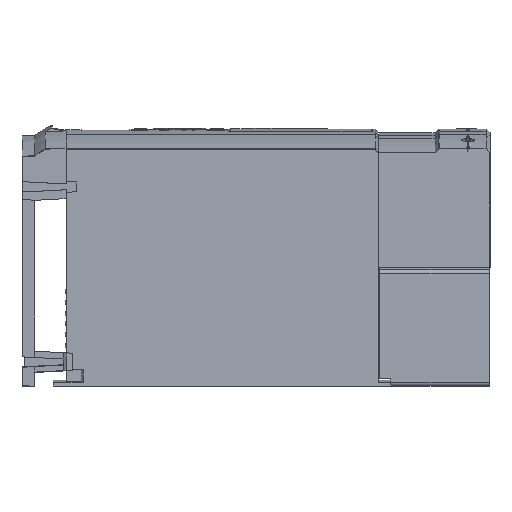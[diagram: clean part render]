
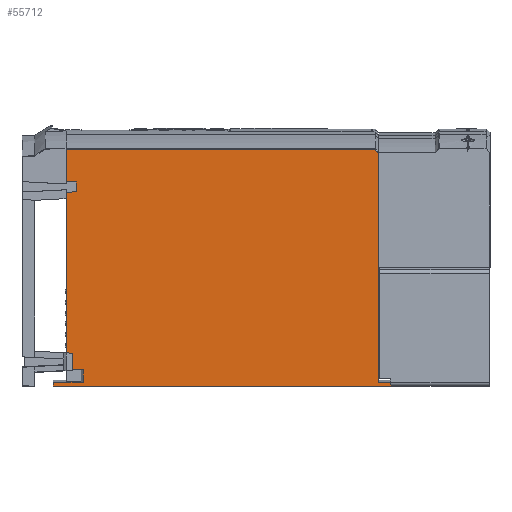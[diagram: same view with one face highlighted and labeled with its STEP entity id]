
A CAD part, left-side view. The second image highlights one B-rep face of the part: STEP entity #55712.
In plain terms, the highlighted planar face has unit normal (-1, 0, 0).
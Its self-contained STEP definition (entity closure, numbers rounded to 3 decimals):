
#3016=CARTESIAN_POINT('',(-104.4,-124.,95.442));
#3242=DIRECTION('',(0.,0.,1.));
#3243=VECTOR('',#3242,181.842);
#3244=CARTESIAN_POINT('',(-104.4,-124.,-86.4));
#3245=LINE('',#3244,#3243);
#3249=DIRECTION('',(0.,-1.,0.));
#3250=VECTOR('',#3249,245.64);
#3251=CARTESIAN_POINT('',(-104.4,124.,99.016));
#3252=LINE('',#3251,#3250);
#3256=CARTESIAN_POINT('',(-104.4,-124.,95.442));
#3257=CARTESIAN_POINT('',(-104.4,-123.609,96.034));
#3258=CARTESIAN_POINT('',(-104.4,-122.825,97.222));
#3259=CARTESIAN_POINT('',(-104.4,-122.036,98.417));
#3260=CARTESIAN_POINT('',(-104.4,-121.64,99.016));
#3265=DIRECTION('',(0.,1.,0.));
#3266=VECTOR('',#3265,268.);
#3267=CARTESIAN_POINT('',(-104.4,-134.,-89.4));
#3268=LINE('',#3267,#3266);
#3272=DIRECTION('',(0.,0.,1.));
#3273=VECTOR('',#3272,10.);
#3274=CARTESIAN_POINT('',(-104.4,110.213,-86.4));
#3275=LINE('',#3274,#3273);
#3279=DIRECTION('',(0.,0.,-1.));
#3280=VECTOR('',#3279,13.452);
#3281=CARTESIAN_POINT('',(-104.4,124.,-62.948));
#3282=LINE('',#3281,#3280);
#3286=DIRECTION('',(0.,0.,-1.));
#3287=VECTOR('',#3286,5.097);
#3288=CARTESIAN_POINT('',(-104.4,124.,64.697));
#3289=LINE('',#3288,#3287);
#3293=DIRECTION('',(0.,0.999,-0.052));
#3294=VECTOR('',#3293,8.01);
#3295=CARTESIAN_POINT('',(-104.4,116.001,65.116));
#3296=LINE('',#3295,#3294);
#3300=DIRECTION('',(0.,0.,1.));
#3301=VECTOR('',#3300,7.767);
#3302=CARTESIAN_POINT('',(-104.4,116.001,65.116));
#3303=LINE('',#3302,#3301);
#3307=DIRECTION('',(0.,-0.999,-0.052));
#3308=VECTOR('',#3307,8.01);
#3309=CARTESIAN_POINT('',(-104.4,124.,73.303));
#3310=LINE('',#3309,#3308);
#3314=DIRECTION('',(0.,0.,-1.));
#3315=VECTOR('',#3314,25.713);
#3316=CARTESIAN_POINT('',(-104.4,124.,99.016));
#3317=LINE('',#3316,#3315);
#3556=DIRECTION('',(0.,0.,1.));
#3557=VECTOR('',#3556,122.548);
#3558=CARTESIAN_POINT('',(-104.4,124.,-62.948));
#3559=LINE('',#3558,#3557);
#5321=DIRECTION('',(0.,-1.,0.));
#5322=VECTOR('',#5321,13.787);
#5323=CARTESIAN_POINT('',(-104.4,124.,-76.4));
#5324=LINE('',#5323,#5322);
#5430=DIRECTION('',(0.,1.,0.));
#5431=VECTOR('',#5430,10.);
#5432=CARTESIAN_POINT('',(-104.4,-134.,-86.4));
#5433=LINE('',#5432,#5431);
#5444=DIRECTION('',(0.,1.,0.));
#5445=VECTOR('',#5444,23.787);
#5446=CARTESIAN_POINT('',(-104.4,110.213,-86.4));
#5447=LINE('',#5446,#5445);
#46353=DIRECTION('',(0.,0.,1.));
#46354=VECTOR('',#46353,3.);
#46355=CARTESIAN_POINT('',(-104.4,134.,-89.4));
#46356=LINE('',#46355,#46354);
#46465=DIRECTION('',(0.,0.,1.));
#46466=VECTOR('',#46465,3.);
#46467=CARTESIAN_POINT('',(-104.4,-134.,-89.4));
#46468=LINE('',#46467,#46466);
#47892=CARTESIAN_POINT('',(-104.4,-134.,-89.4));
#47893=CARTESIAN_POINT('',(-104.4,-134.,-86.4));
#47894=VERTEX_POINT('',#47892);
#47895=VERTEX_POINT('',#47893);
#47900=CARTESIAN_POINT('',(-104.4,134.,-89.4));
#47901=CARTESIAN_POINT('',(-104.4,134.,-86.4));
#47902=VERTEX_POINT('',#47900);
#47903=VERTEX_POINT('',#47901);
#49508=CARTESIAN_POINT('',(-104.4,-124.,-86.4));
#49509=VERTEX_POINT('',#49508);
#49516=CARTESIAN_POINT('',(-104.4,110.213,-86.4));
#49517=VERTEX_POINT('',#49516);
#49518=CARTESIAN_POINT('',(-104.4,110.213,-76.4));
#49519=VERTEX_POINT('',#49518);
#51297=CARTESIAN_POINT('',(-104.4,124.,-62.948));
#51299=VERTEX_POINT('',#51297);
#51309=CARTESIAN_POINT('',(-104.4,124.,59.6));
#51311=VERTEX_POINT('',#51309);
#51333=CARTESIAN_POINT('',(-104.4,124.,64.697));
#51334=VERTEX_POINT('',#51333);
#51335=CARTESIAN_POINT('',(-104.4,116.001,65.116));
#51336=VERTEX_POINT('',#51335);
#51337=CARTESIAN_POINT('',(-104.4,116.001,72.884));
#51338=VERTEX_POINT('',#51337);
#51339=CARTESIAN_POINT('',(-104.4,124.,73.303));
#51340=VERTEX_POINT('',#51339);
#51341=CARTESIAN_POINT('',(-104.4,124.,-76.4));
#51342=VERTEX_POINT('',#51341);
#53701=CARTESIAN_POINT('',(-104.4,124.,99.016));
#53702=CARTESIAN_POINT('',(-104.4,-121.64,99.016));
#53703=VERTEX_POINT('',#53701);
#53704=VERTEX_POINT('',#53702);
#53706=VERTEX_POINT('',#3016);
#55673=CARTESIAN_POINT('',(-104.4,-134.,-89.4));
#55674=DIRECTION('',(-1.,0.,0.));
#55675=DIRECTION('',(0.,0.,1.));
#55676=AXIS2_PLACEMENT_3D('',#55673,#55674,#55675);
#55677=PLANE('',#55676);
#55679=ORIENTED_EDGE('',*,*,#55678,.T.);
#55680=ORIENTED_EDGE('',*,*,#55664,.F.);
#55681=ORIENTED_EDGE('',*,*,#55634,.F.);
#55683=ORIENTED_EDGE('',*,*,#55682,.F.);
#55685=ORIENTED_EDGE('',*,*,#55684,.F.);
#55687=ORIENTED_EDGE('',*,*,#55686,.T.);
#55689=ORIENTED_EDGE('',*,*,#55688,.T.);
#55691=ORIENTED_EDGE('',*,*,#55690,.F.);
#55693=ORIENTED_EDGE('',*,*,#55692,.T.);
#55695=ORIENTED_EDGE('',*,*,#55694,.F.);
#55697=ORIENTED_EDGE('',*,*,#55696,.F.);
#55699=ORIENTED_EDGE('',*,*,#55698,.T.);
#55701=ORIENTED_EDGE('',*,*,#55700,.F.);
#55703=ORIENTED_EDGE('',*,*,#55702,.F.);
#55705=ORIENTED_EDGE('',*,*,#55704,.T.);
#55707=ORIENTED_EDGE('',*,*,#55706,.F.);
#55709=ORIENTED_EDGE('',*,*,#55708,.F.);
#55710=EDGE_LOOP('',(#55679,#55680,#55681,#55683,#55685,#55687,#55689,#55691,
#55693,#55695,#55697,#55699,#55701,#55703,#55705,#55707,#55709));
#55711=FACE_OUTER_BOUND('',#55710,.F.);
#55712=ADVANCED_FACE('',(#55711),#55677,.T.);
#3261=B_SPLINE_CURVE_WITH_KNOTS('',3,(#3256,#3257,#3258,#3259,#3260),
.UNSPECIFIED.,.F.,.F.,(4,1,4),(0.,0.5,1.),.UNSPECIFIED.);
#55634=EDGE_CURVE('',#49509,#53706,#3245,.T.);
#55664=EDGE_CURVE('',#53706,#53704,#3261,.T.);
#55678=EDGE_CURVE('',#53703,#53704,#3252,.T.);
#55682=EDGE_CURVE('',#47895,#49509,#5433,.T.);
#55684=EDGE_CURVE('',#47894,#47895,#46468,.T.);
#55686=EDGE_CURVE('',#47894,#47902,#3268,.T.);
#55688=EDGE_CURVE('',#47902,#47903,#46356,.T.);
#55690=EDGE_CURVE('',#49517,#47903,#5447,.T.);
#55692=EDGE_CURVE('',#49517,#49519,#3275,.T.);
#55694=EDGE_CURVE('',#51342,#49519,#5324,.T.);
#55696=EDGE_CURVE('',#51299,#51342,#3282,.T.);
#55698=EDGE_CURVE('',#51299,#51311,#3559,.T.);
#55700=EDGE_CURVE('',#51334,#51311,#3289,.T.);
#55702=EDGE_CURVE('',#51336,#51334,#3296,.T.);
#55704=EDGE_CURVE('',#51336,#51338,#3303,.T.);
#55706=EDGE_CURVE('',#51340,#51338,#3310,.T.);
#55708=EDGE_CURVE('',#53703,#51340,#3317,.T.);
